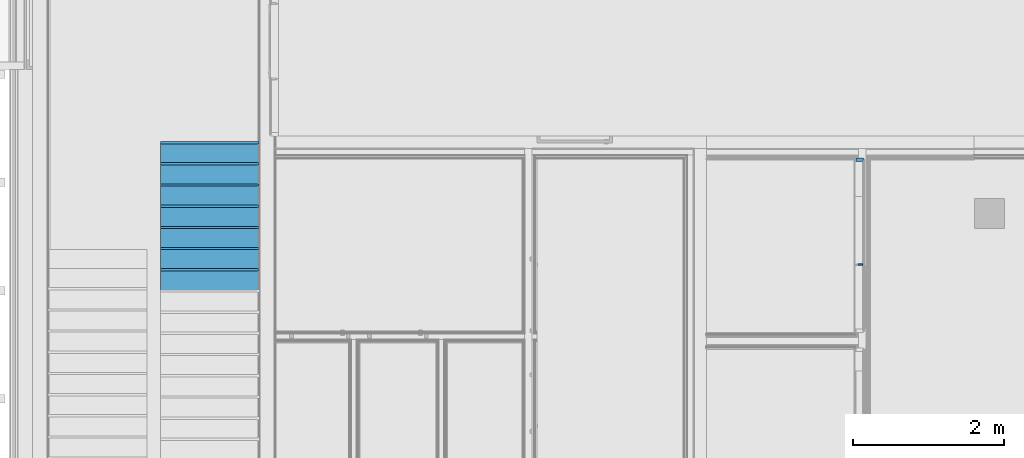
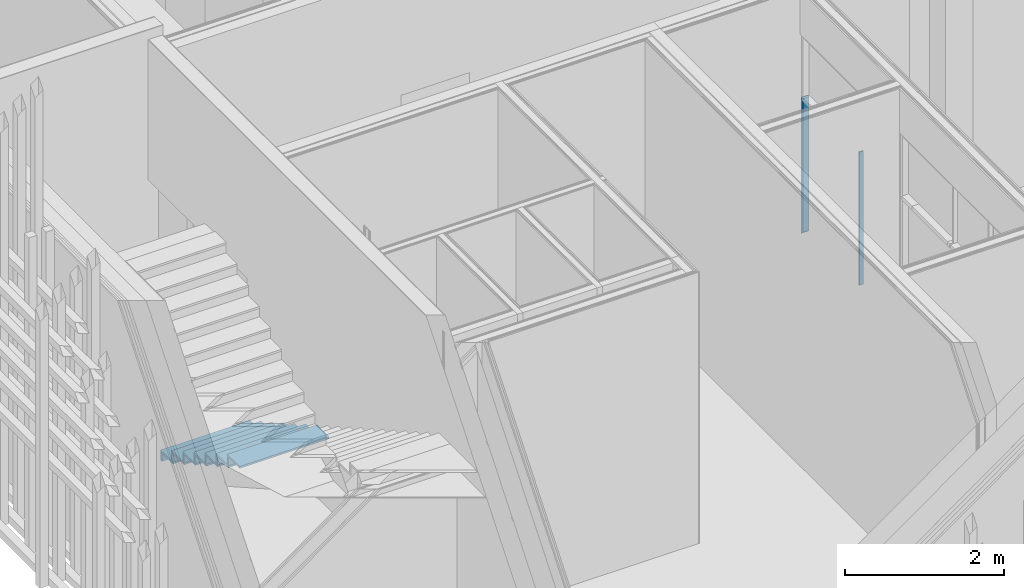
# One storey, part 79 of 260: 16 members, 2 elements without a shape of their own.
"""IFC2X3 building model written with IfcOpenShell, lengths in millimetres."""

from ifc_helpers import new_model, entity, si_unit, converted_unit, derived_unit, money_unit, direction, frame, origin_with_axes, place, context, subcontext, project, spatial, faceted_brep, material, type_object, element, aggregate, save


model = new_model("IFC2X3")

# Units and contexts
model_context = context("Model", 3, precision=0.01, world=origin_with_axes(), true_north=direction((0.0, 1.0)))
body_context = subcontext(model_context, "Body", "Model", "MODEL_VIEW")
ifc_project = project(units=[si_unit("LENGTHUNIT", "METRE", prefix="MILLI"), si_unit("AREAUNIT", "SQUARE_METRE"), si_unit("VOLUMEUNIT", "CUBIC_METRE"), converted_unit("PLANEANGLEUNIT", "DEGREE", entity("IfcPlaneAngleMeasure", 0.0174532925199), si_unit("PLANEANGLEUNIT", "RADIAN"), dimensions=[0, 0, 0, 0, 0, 0, 0]), money_unit("EUR"), converted_unit("TIMEUNIT", "Year", entity("IfcTimeMeasure", 31556926.0), si_unit("TIMEUNIT", "SECOND"), dimensions=[0, 0, 1, 0, 0, 0, 0]), si_unit("MASSUNIT", "GRAM", prefix="KILO"), si_unit("THERMODYNAMICTEMPERATUREUNIT", "DEGREE_CELSIUS"), si_unit("LUMINOUSINTENSITYUNIT", "LUMEN"), si_unit("ENERGYUNIT", "JOULE", prefix="MEGA"), derived_unit("THERMALCONDUCTANCEUNIT", [(si_unit("POWERUNIT", "WATT"), 1), (si_unit("LENGTHUNIT", "METRE"), -1), (si_unit("THERMODYNAMICTEMPERATUREUNIT", "KELVIN"), -1)]), derived_unit("SPECIFICHEATCAPACITYUNIT", [(si_unit("ENERGYUNIT", "JOULE"), 1), (si_unit("MASSUNIT", "GRAM", prefix="KILO"), -1), (si_unit("THERMODYNAMICTEMPERATUREUNIT", "KELVIN"), -1)]), derived_unit("MASSDENSITYUNIT", [(si_unit("MASSUNIT", "GRAM", prefix="KILO"), 1), (si_unit("VOLUMEUNIT", "CUBIC_METRE"), -1)])], contexts=[model_context])

# Site, building, storey
site_placement = place(None, origin_with_axes())
site = spatial("IfcSite", under=ifc_project, at=site_placement, Name="Kolde pst 67a", CompositionType="ELEMENT")
building_placement = place(site_placement, origin_with_axes())
building = spatial("IfcBuilding", under=site, at=building_placement, Name="Riigigümnaasium", CompositionType="ELEMENT")
storey_placement = place(building_placement, origin_with_axes())
storey = spatial("IfcBuildingStorey", under=building, at=storey_placement, Name="1. korrus", CompositionType="ELEMENT", Elevation=0.0)

# Stair, members
stair_placement = place(storey_placement, frame((1729.94042366, 56770.1026666, 0.0), z_axis=(0.0, 0.0, 1.0), x_axis=(1.0, 0.0, 0.0)))
stair = element("IfcStair", 1, at=stair_placement, inside=storey, Name="TREPP", ShapeType="NOTDEFINED")
ifc_material_1 = material(Name="_VIIMISTLUSKIHT - viimistlus vastavalt SA osale")
member_type_1 = type_object("IfcMemberType", Name="IfcMember", PredefinedType="USERDEFINED")
member_1_placement = place(stair_placement, frame((650.0, 0.0, 128.611111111), z_axis=(0.0, 0.0, 1.0), x_axis=(-1.0, 0.0, 0.0)))
member_1 = element("IfcMember", 2, at=member_1_placement, type_object=member_type_1, material=ifc_material_1, Name="TV TÕUS - 176", ObjectType="Stair Riser", context=body_context, shape_type="Brep", body=[
    faceted_brep([(650.0, 0.0, 0.0), (650.0, 30.0, 0.0), (-650.0, 30.0, 0.0), (-650.0, 0.0, 0.0), (650.0, 0.0, -128.611111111), (650.0, 30.0, -128.611111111), (-650.0, 30.0, -128.611111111), (-650.0, 0.0, -128.611111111)], [[[0, 1, 2, 3]], [[0, 4, 5, 1]], [[1, 5, 6, 2]], [[3, 2, 6, 7]], [[4, 0, 3, 7]], [[5, 4, 7, 6]]]),
])
member_2_placement = place(stair_placement, frame((650.0, -280.0, 287.222222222), z_axis=(0.0, 0.0, 1.0), x_axis=(-1.0, 0.0, 0.0)))
member_2 = element("IfcMember", 3, at=member_2_placement, type_object=member_type_1, material=ifc_material_1, Name="TV TÕUS - 177", ObjectType="Stair Riser", context=body_context, shape_type="Brep", body=[
    faceted_brep([(650.0, 0.0, 0.0), (650.0, 30.0, 0.0), (-650.0, 30.0, 0.0), (-650.0, 0.0, 0.0), (650.0, 0.0, -128.611111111), (650.0, 30.0, -128.611111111), (-650.0, 30.0, -128.611111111), (-650.0, 0.0, -128.611111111)], [[[0, 1, 2, 3]], [[0, 4, 5, 1]], [[1, 5, 6, 2]], [[3, 2, 6, 7]], [[4, 0, 3, 7]], [[5, 4, 7, 6]]]),
])
member_3_placement = place(stair_placement, frame((650.0, -560.0, 445.833333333), z_axis=(0.0, 0.0, 1.0), x_axis=(-1.0, 0.0, 0.0)))
member_3 = element("IfcMember", 4, at=member_3_placement, type_object=member_type_1, material=ifc_material_1, Name="TV TÕUS - 178", ObjectType="Stair Riser", context=body_context, shape_type="Brep", body=[
    faceted_brep([(650.0, 0.0, 0.0), (650.0, 30.0, 0.0), (-650.0, 30.0, 0.0), (-650.0, 0.0, 0.0), (650.0, 0.0, -128.611111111), (650.0, 30.0, -128.611111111), (-650.0, 30.0, -128.611111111), (-650.0, 0.0, -128.611111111)], [[[0, 1, 2, 3]], [[0, 4, 5, 1]], [[1, 5, 6, 2]], [[3, 2, 6, 7]], [[4, 0, 3, 7]], [[5, 4, 7, 6]]]),
])
member_4_placement = place(stair_placement, frame((650.0, -840.0, 604.444444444), z_axis=(0.0, 0.0, 1.0), x_axis=(-1.0, 0.0, 0.0)))
member_4 = element("IfcMember", 5, at=member_4_placement, type_object=member_type_1, material=ifc_material_1, Name="TV TÕUS - 179", ObjectType="Stair Riser", context=body_context, shape_type="Brep", body=[
    faceted_brep([(650.0, 0.0, 0.0), (650.0, 30.0, 0.0), (-650.0, 30.0, 0.0), (-650.0, 0.0, 0.0), (650.0, 0.0, -128.611111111), (650.0, 30.0, -128.611111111), (-650.0, 30.0, -128.611111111), (-650.0, 0.0, -128.611111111)], [[[0, 1, 2, 3]], [[0, 4, 5, 1]], [[1, 5, 6, 2]], [[3, 2, 6, 7]], [[4, 0, 3, 7]], [[5, 4, 7, 6]]]),
])
member_5_placement = place(stair_placement, frame((650.0, -1120.0, 763.055555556), z_axis=(0.0, 0.0, 1.0), x_axis=(-1.0, 0.0, 0.0)))
member_5 = element("IfcMember", 6, at=member_5_placement, type_object=member_type_1, material=ifc_material_1, Name="TV TÕUS - 180", ObjectType="Stair Riser", context=body_context, shape_type="Brep", body=[
    faceted_brep([(650.0, 0.0, 0.0), (650.0, 30.0, 0.0), (-650.0, 30.0, 0.0), (-650.0, 0.0, 0.0), (650.0, 0.0, -128.611111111), (650.0, 30.0, -128.611111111), (-650.0, 30.0, -128.611111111), (-650.0, 0.0, -128.611111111)], [[[0, 1, 2, 3]], [[0, 4, 5, 1]], [[1, 5, 6, 2]], [[3, 2, 6, 7]], [[4, 0, 3, 7]], [[5, 4, 7, 6]]]),
])
member_6_placement = place(stair_placement, frame((650.0, -1400.0, 921.666666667), z_axis=(0.0, 0.0, 1.0), x_axis=(-1.0, 0.0, 0.0)))
member_6 = element("IfcMember", 7, at=member_6_placement, type_object=member_type_1, material=ifc_material_1, Name="TV TÕUS - 181", ObjectType="Stair Riser", context=body_context, shape_type="Brep", body=[
    faceted_brep([(650.0, 0.0, 0.0), (650.0, 30.0, 0.0), (-650.0, 30.0, 0.0), (-650.0, 0.0, 0.0), (650.0, 0.0, -128.611111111), (650.0, 30.0, -128.611111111), (-650.0, 30.0, -128.611111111), (-650.0, 0.0, -128.611111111)], [[[0, 1, 2, 3]], [[0, 4, 5, 1]], [[1, 5, 6, 2]], [[3, 2, 6, 7]], [[4, 0, 3, 7]], [[5, 4, 7, 6]]]),
])
member_7_placement = place(stair_placement, frame((650.0, -1680.0, 1080.27777778), z_axis=(0.0, 0.0, 1.0), x_axis=(-1.0, 0.0, 0.0)))
member_7 = element("IfcMember", 8, at=member_7_placement, type_object=member_type_1, material=ifc_material_1, Name="TV TÕUS - 182", ObjectType="Stair Riser", context=body_context, shape_type="Brep", body=[
    faceted_brep([(650.0, 0.0, 0.0), (650.0, 30.0, 0.0), (-650.0, 30.0, 0.0), (-650.0, 0.0, 0.0), (650.0, 0.0, -128.611111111), (650.0, 30.0, -128.611111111), (-650.0, 30.0, -128.611111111), (-650.0, 0.0, -128.611111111)], [[[0, 1, 2, 3]], [[0, 4, 5, 1]], [[1, 5, 6, 2]], [[3, 2, 6, 7]], [[4, 0, 3, 7]], [[5, 4, 7, 6]]]),
])
member_type_2 = type_object("IfcMemberType", Name="IfcMember", PredefinedType="USERDEFINED")
member_8_placement = place(stair_placement, frame((650.0, 0.0, 158.611111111), z_axis=(0.0, 0.0, 1.0), x_axis=(-1.0, 0.0, 0.0)))
member_8 = element("IfcMember", 9, at=member_8_placement, type_object=member_type_2, material=ifc_material_1, Name="TV ASTE - 177", ObjectType="Stair Tread", context=body_context, shape_type="Brep", body=[
    faceted_brep([(-650.0, 0.0, -30.0), (650.0, 0.0, -30.0), (650.0, 0.0, 0.0), (-650.0, 0.0, 0.0), (-650.0, 310.0, -30.0), (650.0, 310.0, -30.0), (650.0, 310.0, 0.0), (-650.0, 310.0, 0.0)], [[[0, 1, 2, 3]], [[0, 4, 5, 1]], [[1, 5, 6, 2]], [[3, 2, 6, 7]], [[4, 0, 3, 7]], [[5, 4, 7, 6]]]),
])
member_9_placement = place(stair_placement, frame((650.0, -280.0, 317.222222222), z_axis=(0.0, 0.0, 1.0), x_axis=(-1.0, 0.0, 0.0)))
member_9 = element("IfcMember", 10, at=member_9_placement, type_object=member_type_2, material=ifc_material_1, Name="TV ASTE - 178", ObjectType="Stair Tread", context=body_context, shape_type="Brep", body=[
    faceted_brep([(-650.0, 0.0, -30.0), (650.0, 0.0, -30.0), (650.0, 0.0, 0.0), (-650.0, 0.0, 0.0), (-650.0, 310.0, -30.0), (650.0, 310.0, -30.0), (650.0, 310.0, 0.0), (-650.0, 310.0, 0.0)], [[[0, 1, 2, 3]], [[0, 4, 5, 1]], [[1, 5, 6, 2]], [[3, 2, 6, 7]], [[4, 0, 3, 7]], [[5, 4, 7, 6]]]),
])
member_10_placement = place(stair_placement, frame((650.0, -560.0, 475.833333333), z_axis=(0.0, 0.0, 1.0), x_axis=(-1.0, 0.0, 0.0)))
member_10 = element("IfcMember", 11, at=member_10_placement, type_object=member_type_2, material=ifc_material_1, Name="TV ASTE - 179", ObjectType="Stair Tread", context=body_context, shape_type="Brep", body=[
    faceted_brep([(-650.0, 0.0, -30.0), (650.0, 0.0, -30.0), (650.0, 0.0, 0.0), (-650.0, 0.0, 0.0), (-650.0, 310.0, -30.0), (650.0, 310.0, -30.0), (650.0, 310.0, 0.0), (-650.0, 310.0, 0.0)], [[[0, 1, 2, 3]], [[0, 4, 5, 1]], [[1, 5, 6, 2]], [[3, 2, 6, 7]], [[4, 0, 3, 7]], [[5, 4, 7, 6]]]),
])
member_11_placement = place(stair_placement, frame((650.0, -840.0, 634.444444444), z_axis=(0.0, 0.0, 1.0), x_axis=(-1.0, 0.0, 0.0)))
member_11 = element("IfcMember", 12, at=member_11_placement, type_object=member_type_2, material=ifc_material_1, Name="TV ASTE - 180", ObjectType="Stair Tread", context=body_context, shape_type="Brep", body=[
    faceted_brep([(-650.0, 0.0, -30.0), (650.0, 0.0, -30.0), (650.0, 0.0, 0.0), (-650.0, 0.0, 0.0), (-650.0, 310.0, -30.0), (650.0, 310.0, -30.0), (650.0, 310.0, 0.0), (-650.0, 310.0, 0.0)], [[[0, 1, 2, 3]], [[0, 4, 5, 1]], [[1, 5, 6, 2]], [[3, 2, 6, 7]], [[4, 0, 3, 7]], [[5, 4, 7, 6]]]),
])
member_12_placement = place(stair_placement, frame((650.0, -1120.0, 793.055555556), z_axis=(0.0, 0.0, 1.0), x_axis=(-1.0, 0.0, 0.0)))
member_12 = element("IfcMember", 13, at=member_12_placement, type_object=member_type_2, material=ifc_material_1, Name="TV ASTE - 181", ObjectType="Stair Tread", context=body_context, shape_type="Brep", body=[
    faceted_brep([(-650.0, 0.0, -30.0), (650.0, 0.0, -30.0), (650.0, 0.0, 0.0), (-650.0, 0.0, 0.0), (-650.0, 310.0, -30.0), (650.0, 310.0, -30.0), (650.0, 310.0, 0.0), (-650.0, 310.0, 0.0)], [[[0, 1, 2, 3]], [[0, 4, 5, 1]], [[1, 5, 6, 2]], [[3, 2, 6, 7]], [[4, 0, 3, 7]], [[5, 4, 7, 6]]]),
])
member_13_placement = place(stair_placement, frame((650.0, -1400.0, 951.666666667), z_axis=(0.0, 0.0, 1.0), x_axis=(-1.0, 0.0, 0.0)))
member_13 = element("IfcMember", 14, at=member_13_placement, type_object=member_type_2, material=ifc_material_1, Name="TV ASTE - 182", ObjectType="Stair Tread", context=body_context, shape_type="Brep", body=[
    faceted_brep([(-650.0, 0.0, -30.0), (650.0, 0.0, -30.0), (650.0, 0.0, 0.0), (-650.0, 0.0, 0.0), (-650.0, 310.0, -30.0), (650.0, 310.0, -30.0), (650.0, 310.0, 0.0), (-650.0, 310.0, 0.0)], [[[0, 1, 2, 3]], [[0, 4, 5, 1]], [[1, 5, 6, 2]], [[3, 2, 6, 7]], [[4, 0, 3, 7]], [[5, 4, 7, 6]]]),
])
member_14_placement = place(stair_placement, frame((650.0, -1680.0, 1110.27777778), z_axis=(0.0, 0.0, 1.0), x_axis=(-1.0, 0.0, 0.0)))
member_14 = element("IfcMember", 15, at=member_14_placement, type_object=member_type_2, material=ifc_material_1, Name="TV ASTE - 183", ObjectType="Stair Tread", context=body_context, shape_type="Brep", body=[
    faceted_brep([(-650.0, 0.0, -30.0), (650.0, 0.0, -30.0), (650.0, 0.0, 0.0), (-650.0, 0.0, 0.0), (-650.0, 310.0, -30.0), (650.0, 310.0, -30.0), (650.0, 310.0, 0.0), (-650.0, 310.0, 0.0)], [[[0, 1, 2, 3]], [[0, 4, 5, 1]], [[1, 5, 6, 2]], [[3, 2, 6, 7]], [[4, 0, 3, 7]], [[5, 4, 7, 6]]]),
])
aggregate(stair, [member_1, member_2, member_3, member_4, member_5, member_6, member_7, member_8, member_9, member_10, member_11, member_12, member_13, member_14])

# Curtain wall, members
curtain_wall_type = type_object("IfcCurtainWallType", Name="Curtain Wall Type", PredefinedType="NOTDEFINED")
curtain_wall_placement = place(storey_placement, frame((11015.6058867, 55913.7308132, 399.999999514), z_axis=(0.0, 0.0, 1.0), x_axis=(1.0, 0.0, 0.0)))
curtain_wall = element("IfcCurtainWall", 16, at=curtain_wall_placement, inside=storey, type_object=curtain_wall_type, Name="KLAASSEIN")
ifc_material_2 = material(Name="_GENEERILINE MATERJAL")
member_type_3 = type_object("IfcMemberType", Name="Boundary Frame 50 x 100", PredefinedType="MEMBER")
member_15_placement = place(curtain_wall_placement, frame((0.00709946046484, 638.739900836, 2100.00002621), z_axis=(0.0, 0.0, -1.0), x_axis=(-1.11147909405e-05, -0.999999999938, 0.0)))
member_15 = element("IfcMember", 17, at=member_15_placement, type_object=member_type_3, material=ifc_material_2, Name="RF RAAM SERV-339", ObjectType="MEMBER", context=body_context, shape_type="Brep", body=[
    faceted_brep([(50.0, 10.0, -4.34205560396e-07), (50.0, 100.0, -4.34205560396e-07), (50.0, 100.0, 2050.00002572), (50.0, 10.0, 2050.00002572), (25.0, 10.0, -4.34205560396e-07), (25.0, 0.0, -4.34205560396e-07), (0.0, 0.0, -4.34205560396e-07), (0.0, 100.0, -4.34205560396e-07), (0.0, 100.0, 2100.00002572), (25.0, 10.0, 2075.00002572), (0.0, 0.0, 2100.00002572), (25.0, 0.0, 2075.00002572)], [[[0, 1, 2, 3]], [[4, 5, 6, 7, 1, 0]], [[1, 7, 8, 2]], [[9, 3, 2, 8, 10, 11]], [[9, 4, 0, 3]], [[5, 4, 9, 11]], [[11, 10, 6, 5]], [[7, 6, 10, 8]]]),
])
ifc_material_3 = material(Name="_METALL - alumiinium")
member_type_4 = type_object("IfcMemberType", Name="Mullion Frame 20 x 70", PredefinedType="MEMBER")
member_16_placement = place(curtain_wall_placement, frame((-0.00855138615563, -769.36995039, 4.86439333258e-07), z_axis=(0.0, 0.0, 1.0), x_axis=(1.11147909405e-05, 0.999999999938, 0.0)))
member_16 = element("IfcMember", 18, at=member_16_placement, type_object=member_type_4, material=ifc_material_3, Name="RF RAAM VERT-356", ObjectType="MEMBER", context=body_context, shape_type="Brep", body=[
    faceted_brep([(0.0, 10.0, 50.0), (10.0, 10.0, 50.0), (10.0, 10.0, 2100.00002572), (0.0, 10.0, 2100.00002572), (-10.0, 10.0, 2100.00002572), (-10.0, 10.0, 50.0), (-10.0, 70.0, 50.0), (10.0, 70.0, 50.0), (10.0, 70.0, 2100.00002572), (-10.0, 70.0, 2100.00002572)], [[[0, 1, 2, 3, 4, 5]], [[5, 6, 7, 1, 0]], [[2, 1, 7, 8]], [[3, 2, 8, 9, 4]], [[4, 9, 6, 5]], [[9, 8, 7, 6]]]),
])
aggregate(curtain_wall, [member_16, member_15])

save(model, "model.ifc")
